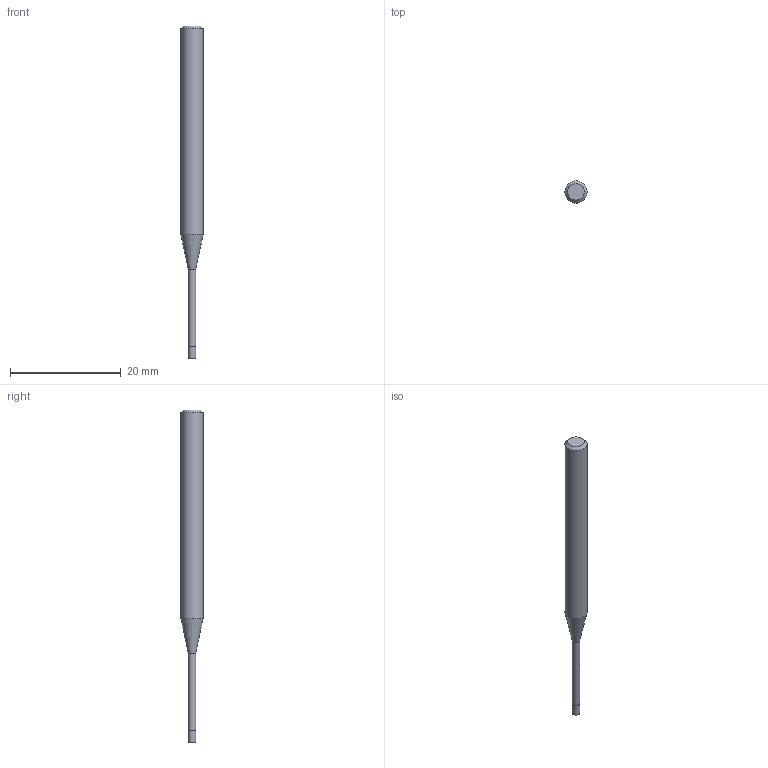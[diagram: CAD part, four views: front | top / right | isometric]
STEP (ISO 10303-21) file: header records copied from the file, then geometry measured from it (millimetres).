
FILE_DESCRIPTION((''),'2;1');
FILE_NAME('C:\Users\nsx150\AppData\Local\Temp\Mastercam 2021\17T8Q8S9EB\TEMP.step','2021-04-21T14:26:30',(''),(''),'STEP Write','Mastercam 2021 ... CNC Software, Inc.','');
FILE_SCHEMA(('AUTOMOTIVE_DESIGN'));
Length unit declared in the file: millimetre
Products named in the file (1): None
Bounding box: 4 x 4 x 60 mm (x, y, z)
Volume: 534.2 mm3; surface area: 609.4 mm2
Topology: 2 solids, 2 shells, 9 faces, 12 edges, 7 vertices
Faces by surface type: plane 4, cylinder 3, cone 2
Full cylindrical faces by diameter (mm): 1.35 x1, 1.4 x1, 4 x1
Entity records: 211 total; most frequent: DIRECTION 36, CARTESIAN_POINT 25, AXIS2_PLACEMENT_3D 18, ORIENTED_EDGE 14, EDGE_LOOP 14, STYLED_ITEM 12, ADVANCED_FACE 9, FACE_BOUND 8
